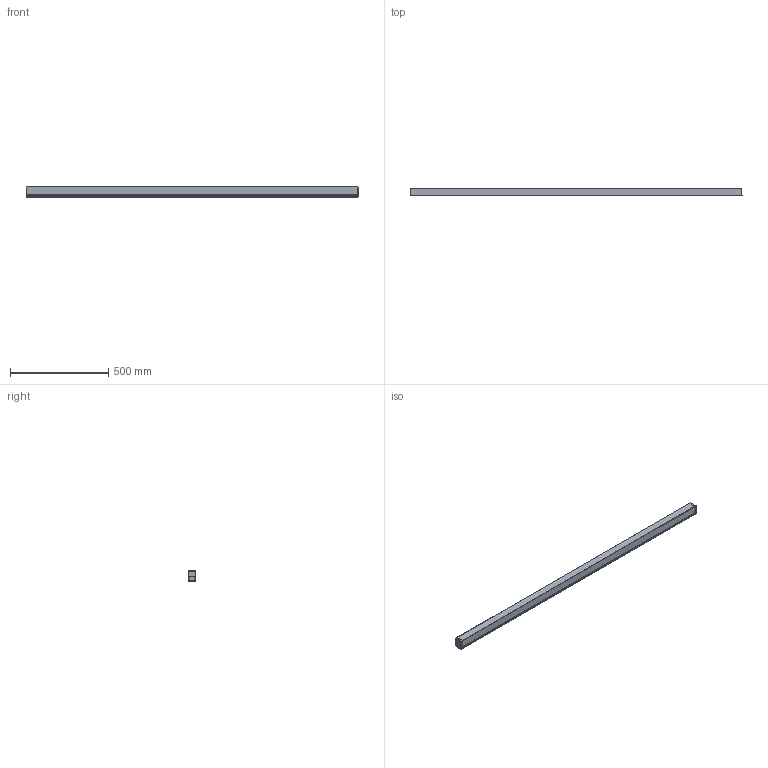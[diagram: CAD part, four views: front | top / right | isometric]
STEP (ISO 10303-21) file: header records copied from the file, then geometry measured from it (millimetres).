
FILE_DESCRIPTION(/* description */ (''),/* implementation_level */ '2;1');
FILE_NAME(/* name */ 'REK_TRACK_RKT16.stp',/* time_stamp */ '2025-09-11T11:46:12+02:00',/* author */ ('gian.noche'),/* organization */ (''),/* preprocessor_version */ 'ST-DEVELOPER v19.2',/* originating_system */ 'Autodesk Inventor 2023',/* authorisation */ '');
FILE_SCHEMA (('AUTOMOTIVE_DESIGN { 1 0 10303 214 3 1 1 }'));
Length unit declared in the file: millimetre
Products named in the file (1): IDP_293_REK_TRACK_1690_Semplifica_1
Bounding box: 1689.2 x 40.27 x 53.3 mm (x, y, z)
Volume: 384443.2 mm3; surface area: 953696.8 mm2
Topology: 3 solids, 3 shells, 226 faces, 552 edges, 324 vertices
Faces by surface type: plane 166, cylinder 60
Entity records: 6535 total; most frequent: DIRECTION 1132, CARTESIAN_POINT 1109, ORIENTED_EDGE 1108, EDGE_CURVE 554, LINE 430, VECTOR 430, AXIS2_PLACEMENT_3D 351, VERTEX_POINT 328
